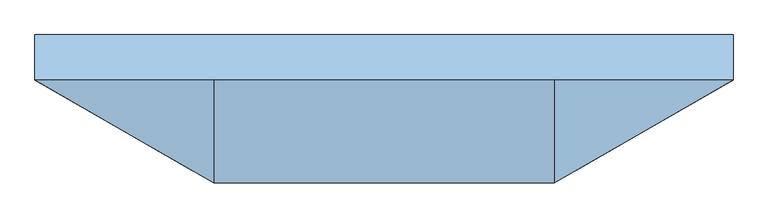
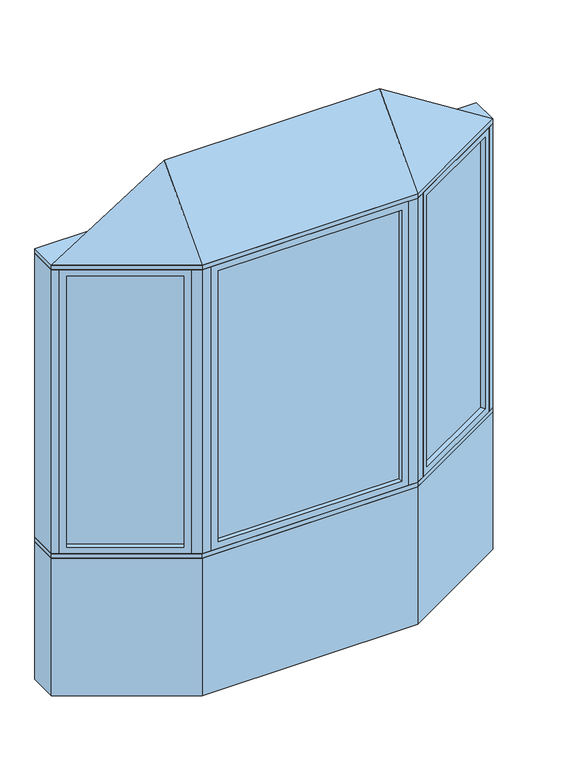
"""IFC4 building model written with IfcOpenShell, lengths in millimetres: window geometry, Pollard_Windows_Tudor Casement Bows and Bays : AML-BAY 30 AFR0616-12-600."""

from ifc_helpers import new_model, si_unit, frame, origin, origin_with_axes, place, context, project, spatial, polyline, outline, extrude, faceted_brep, source, transform, mapped, element, save


def window_cdd08d65(model_context):
    return source(origin(), model_context, "Body", "SolidModel", [
        extrude(outline(polyline([(1113.112102, -82.0482469), (624.8834764, -363.9271754), (622.3434764, -359.5277664), (1110.572102, -77.6488379), (1113.112102, -82.0482469)])), frame((0.0, 0.0, 823.1628), z_axis=(0.0, 0.0, 1.0), x_axis=(1.0, 0.0, 0.0)), (0.0, 0.0, 1.0), 1553.6704),
        faceted_brep([(1102.1135794, -88.3982469, 835.8628), (1114.8135794, -110.3952922, 835.8628), (1114.8135794, -110.3952922, 2364.1332), (1102.1135794, -88.3982469, 2364.1332), (1110.572102, -77.6488379, 823.1628), (1113.112102, -82.0482469, 823.1628), (1113.112102, -82.0482469, 2376.8332), (1110.572102, -77.6488379, 2376.8332), (1086.8735794, -62.0017926, 835.8628), (1099.5735794, -83.9988379, 835.8628), (1099.5735794, -83.9988379, 2364.1332), (1086.8735794, -62.0017926, 2364.1332), (1145.8734073, -92.4628922, 799.998), (1117.9334073, -44.0693926, 799.998), (1117.9334073, -44.0693926, 2399.998), (1145.8734073, -92.4628922, 2399.998), (648.581999, -379.5742207, 2364.1332), (635.881999, -357.5771754, 2364.1332), (624.8834764, -363.9271754, 2376.8332), (622.3434764, -359.5277664, 2376.8332), (633.341999, -353.1777664, 2364.1332), (620.641999, -331.1807211, 2364.1332), (589.5821711, -349.1131211, 2399.998), (617.5221711, -397.5066207, 2399.998), (648.581999, -379.5742207, 835.8628), (635.881999, -357.5771754, 835.8628), (624.8834764, -363.9271754, 823.1628), (622.3434764, -359.5277664, 823.1628), (633.341999, -353.1777664, 835.8628), (620.641999, -331.1807211, 835.8628), (589.5821711, -349.1131211, 799.998), (617.5221711, -397.5066207, 799.998)], [[[0, 1, 2, 3]], [[4, 5, 6, 7]], [[8, 9, 10, 11]], [[12, 13, 14, 15]], [[3, 2, 16, 17]], [[7, 6, 18, 19]], [[11, 10, 20, 21]], [[15, 14, 22, 23]], [[17, 16, 24, 25]], [[19, 18, 26, 27]], [[21, 20, 28, 29]], [[23, 22, 30, 31]], [[25, 24, 1, 0]], [[5, 26, 18, 6], [3, 17, 25, 0]], [[27, 26, 5, 4]], [[7, 19, 27, 4], [9, 28, 20, 10]], [[29, 28, 9, 8]], [[13, 30, 22, 14], [11, 21, 29, 8]], [[31, 30, 13, 12]], [[15, 23, 31, 12], [1, 24, 16, 2]]]),
        extrude(outline(polyline([(-624.8834764, -363.9271754), (-1113.112102, -82.0482469), (-1110.572102, -77.6488379), (-622.3434764, -359.5277664), (-624.8834764, -363.9271754)])), frame((0.0, 0.0, 823.1628), z_axis=(0.0, 0.0, 1.0), x_axis=(1.0, 0.0, 0.0)), (0.0, 0.0, 1.0), 1553.6704),
        faceted_brep([(-633.341999, -353.1777664, 2364.1332), (-620.641999, -331.1807211, 2364.1332), (-620.641999, -331.1807211, 835.8628), (-633.341999, -353.1777664, 835.8628), (-624.8834764, -363.9271754, 2376.8332), (-622.3434764, -359.5277664, 2376.8332), (-622.3434764, -359.5277664, 823.1628), (-624.8834764, -363.9271754, 823.1628), (-648.581999, -379.5742207, 2364.1332), (-635.881999, -357.5771754, 2364.1332), (-635.881999, -357.5771754, 835.8628), (-648.581999, -379.5742207, 835.8628), (-589.5821711, -349.1131211, 2399.998), (-617.5221711, -397.5066207, 2399.998), (-617.5221711, -397.5066207, 799.998), (-589.5821711, -349.1131211, 799.998), (-1086.8735794, -62.0017926, 835.8628), (-1099.5735794, -83.9988379, 835.8628), (-1110.572102, -77.6488379, 823.1628), (-1113.112102, -82.0482469, 823.1628), (-1102.1135794, -88.3982469, 835.8628), (-1114.8135794, -110.3952922, 835.8628), (-1145.8734073, -92.4628922, 799.998), (-1117.9334073, -44.0693926, 799.998), (-1086.8735794, -62.0017926, 2364.1332), (-1099.5735794, -83.9988379, 2364.1332), (-1110.572102, -77.6488379, 2376.8332), (-1113.112102, -82.0482469, 2376.8332), (-1102.1135794, -88.3982469, 2364.1332), (-1114.8135794, -110.3952922, 2364.1332), (-1145.8734073, -92.4628922, 2399.998), (-1117.9334073, -44.0693926, 2399.998)], [[[0, 1, 2, 3]], [[4, 5, 6, 7]], [[8, 9, 10, 11]], [[12, 13, 14, 15]], [[3, 2, 16, 17]], [[7, 6, 18, 19]], [[11, 10, 20, 21]], [[15, 14, 22, 23]], [[17, 16, 24, 25]], [[19, 18, 26, 27]], [[21, 20, 28, 29]], [[23, 22, 30, 31]], [[15, 23, 31, 12], [1, 24, 16, 2]], [[25, 24, 1, 0]], [[5, 26, 18, 6], [3, 17, 25, 0]], [[27, 26, 5, 4]], [[7, 19, 27, 4], [9, 28, 20, 10]], [[29, 28, 9, 8]], [[13, 30, 22, 14], [11, 21, 29, 8]], [[31, 30, 13, 12]]]),
        extrude(outline(polyline([(501.0561009, -397.1066207), (-501.0561009, -397.1066207), (-501.0561009, -392.0266207), (501.0561009, -392.0266207), (501.0561009, -397.1066207)])), frame((0.0, 0.0, 823.1628), z_axis=(0.0, 0.0, 1.0), x_axis=(1.0, 0.0, 0.0)), (0.0, 0.0, 1.0), 1553.6704),
        faceted_brep([(488.3561009, -397.1066207, 835.8628), (488.3561009, -422.5066207, 835.8628), (488.3561009, -422.5066207, 2364.1332), (488.3561009, -397.1066207, 2364.1332), (501.0561009, -392.0266207, 823.1628), (501.0561009, -397.1066207, 823.1628), (501.0561009, -397.1066207, 2376.8332), (501.0561009, -392.0266207, 2376.8332), (488.3561009, -366.6266207, 835.8628), (488.3561009, -392.0266207, 835.8628), (488.3561009, -392.0266207, 2364.1332), (488.3561009, -366.6266207, 2364.1332), (524.2209009, -422.5066207, 799.998), (524.2209009, -366.6266207, 799.998), (524.2209009, -366.6266207, 2399.998), (524.2209009, -422.5066207, 2399.998), (-488.3561009, -422.5066207, 2364.1332), (-488.3561009, -397.1066207, 2364.1332), (-501.0561009, -397.1066207, 2376.8332), (-501.0561009, -392.0266207, 2376.8332), (-488.3561009, -392.0266207, 2364.1332), (-488.3561009, -366.6266207, 2364.1332), (-524.2209009, -366.6266207, 2399.998), (-524.2209009, -422.5066207, 2399.998), (-488.3561009, -422.5066207, 835.8628), (-488.3561009, -397.1066207, 835.8628), (-501.0561009, -397.1066207, 823.1628), (-501.0561009, -392.0266207, 823.1628), (-488.3561009, -392.0266207, 835.8628), (-488.3561009, -366.6266207, 835.8628), (-524.2209009, -366.6266207, 799.998), (-524.2209009, -422.5066207, 799.998)], [[[0, 1, 2, 3]], [[4, 5, 6, 7]], [[8, 9, 10, 11]], [[12, 13, 14, 15]], [[3, 2, 16, 17]], [[7, 6, 18, 19]], [[11, 10, 20, 21]], [[15, 14, 22, 23]], [[17, 16, 24, 25]], [[19, 18, 26, 27]], [[21, 20, 28, 29]], [[23, 22, 30, 31]], [[15, 23, 31, 12], [1, 24, 16, 2]], [[25, 24, 1, 0]], [[5, 26, 18, 6], [3, 17, 25, 0]], [[27, 26, 5, 4]], [[7, 19, 27, 4], [9, 28, 20, 10]], [[29, 28, 9, 8]], [[13, 30, 22, 14], [11, 21, 29, 8]], [[31, 30, 13, 12]]]),
        faceted_brep([(1176.5, -74.7806207, 2425.398), (574.2209009, -422.5066207, 2425.398), (-574.2209009, -422.5066207, 2425.398), (-1176.5, -74.7806207, 2425.398), (-574.2209009, -74.7806207, 2806.398), (574.2209009, -74.7806207, 2806.398)], [[[0, 1, 2, 3]], [[3, 2, 4]], [[2, 1, 5, 4]], [[1, 0, 5]], [[0, 3, 4, 5]]]),
        extrude(outline(polyline([(-1176.5, 77.6193793), (1176.5, 77.6193793), (1176.5, -74.7806207), (574.2209009, -422.5066207), (-574.2209009, -422.5066207), (-1176.5, -74.7806207), (-1176.5, 77.6193793)])), frame((0.0, 0.0, 2399.998), z_axis=(0.0, 0.0, 1.0), x_axis=(1.0, 0.0, 0.0)), (0.0, 0.0, 1.0), 25.4),
        extrude(outline(polyline([(-1176.5, -74.7806207), (-1176.5, 77.6193793), (-1135.6645431, 77.6193793), (-1135.6645431, -74.7806207), (-1145.8734073, -92.4628922), (-1176.5, -74.7806207)])), frame((0.0, 0.0, 799.998), z_axis=(0.0, 0.0, 1.0), x_axis=(1.0, 0.0, 0.0)), (0.0, 0.0, 1.0), 1600.0),
        extrude(outline(polyline([(1176.5, 77.6193793), (1176.5, -74.7806207), (1145.8734073, -92.4628922), (1135.6645431, -74.7806207), (1135.6645431, 77.6193793), (1176.5, 77.6193793)])), frame((0.0, 0.0, 799.998), z_axis=(0.0, 0.0, 1.0), x_axis=(1.0, 0.0, 0.0)), (0.0, 0.0, 1.0), 1600.0),
        extrude(outline(polyline([(574.2209009, -422.5066207), (524.2209009, -422.5066207), (524.2209009, -372.5066207), (560.8234413, -372.5066207), (592.5221711, -354.2053505), (617.5221711, -397.5066207), (574.2209009, -422.5066207)])), frame((0.0, 0.0, 799.998), z_axis=(0.0, 0.0, 1.0), x_axis=(1.0, 0.0, 0.0)), (0.0, 0.0, 1.0), 1600.0),
        extrude(outline(polyline([(-574.2209009, -422.5066207), (-617.5221711, -397.5066207), (-592.5221711, -354.2053505), (-560.8234413, -372.5066207), (-524.2209009, -372.5066207), (-524.2209009, -422.5066207), (-574.2209009, -422.5066207)])), frame((0.0, 0.0, 799.998), z_axis=(0.0, 0.0, 1.0), x_axis=(1.0, 0.0, 0.0)), (0.0, 0.0, 1.0), 1600.0),
        extrude(outline(polyline([(-574.2209009, -422.5066207), (-1176.5, -74.7806207), (-1176.5, 77.6193793), (-1135.6645431, 77.6193793), (-533.385444, -270.1066207), (533.385444, -270.1066207), (1135.6645431, 77.6193793), (1176.5, 77.6193793), (1176.5, -74.7806207), (574.2209009, -422.5066207), (-574.2209009, -422.5066207)])), frame((0.0, 0.0, 774.598), z_axis=(0.0, 0.0, 1.0), x_axis=(1.0, 0.0, 0.0)), (0.0, 0.0, 1.0), 25.4),
        extrude(outline(polyline([(-1176.5, -74.7806207), (-1176.5, 77.6193793), (-1135.6645431, 77.6193793), (-533.385444, -270.1066207), (533.385444, -270.1066207), (1135.6645431, 77.6193793), (1176.5, 77.6193793), (1176.5, -74.7806207), (574.2209009, -422.5066207), (-574.2209009, -422.5066207), (-1176.5, -74.7806207)])), origin_with_axes(), (0.0, 0.0, 1.0), 774.598),
    ])


if __name__ == "__main__":
    model = new_model("IFC4")
    model_context = context("Model", 3, world=origin())
    ifc_project = project(units=[si_unit("LENGTHUNIT", "METRE", prefix="MILLI")], contexts=[model_context])
    site = spatial("IfcSite", under=ifc_project)
    building = spatial("IfcBuilding", under=site)
    placement = place(None, origin())
    window_shape = window_cdd08d65(model_context)
    element("IfcWindow", 1, ObjectType="Pollard_Windows_Tudor Casement Bows and Bays : AML-BAY 30 AFR0616-12-600", at=placement, inside=building, context=model_context, shape_type="MappedRepresentation", body=[
        mapped(window_shape, transform((0.0, 0.0, 0.0), x_axis=(1.0, 0.0, 0.0), y_axis=(0.0, 1.0, 0.0), z_axis=(0.0, 0.0, 1.0))),
    ])
    save(model, "model.ifc")
